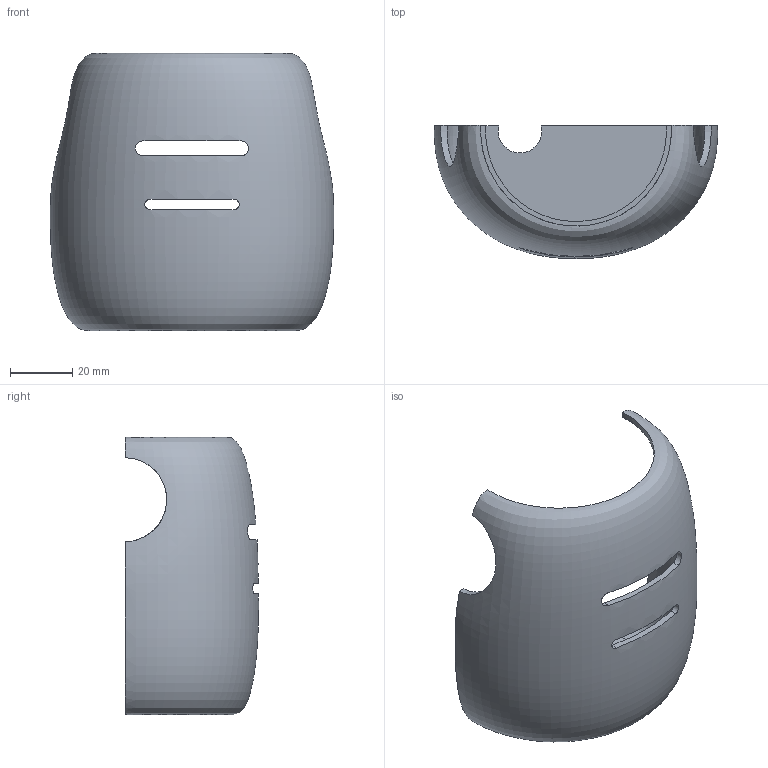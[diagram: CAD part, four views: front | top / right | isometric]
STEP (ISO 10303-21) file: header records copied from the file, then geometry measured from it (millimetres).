
FILE_DESCRIPTION(('Open CASCADE Model'),'2;1');
FILE_NAME('Open CASCADE Shape Model','2026-11-11T21:44:28',('Author'),( 'Open CASCADE'),'Open CASCADE STEP processor 8.0','build123d', 'Unknown');
FILE_SCHEMA(('AUTOMOTIVE_DESIGN { 1 0 10303 214 1 1 1 1 }'));
Products named in the file (1): SOLID
Bounding box: 90.95 x 42.73 x 89 mm (x, y, z)
Volume: 26347.8 mm3; surface area: 27445.6 mm2
Topology: 1 solids, 1 shells, 20 faces, 54 edges, 36 vertices
Faces by surface type: plane 10, cylinder 8, bspline 2
Entity records: 48368 total; most frequent: CARTESIAN_POINT 47505, B_SPLINE_CURVE_WITH_KNOTS 122, ORIENTED_EDGE 108, PCURVE 108, DEFINITIONAL_REPRESENTATION 108, DIRECTION 78, EDGE_CURVE 54, SURFACE_CURVE 54
